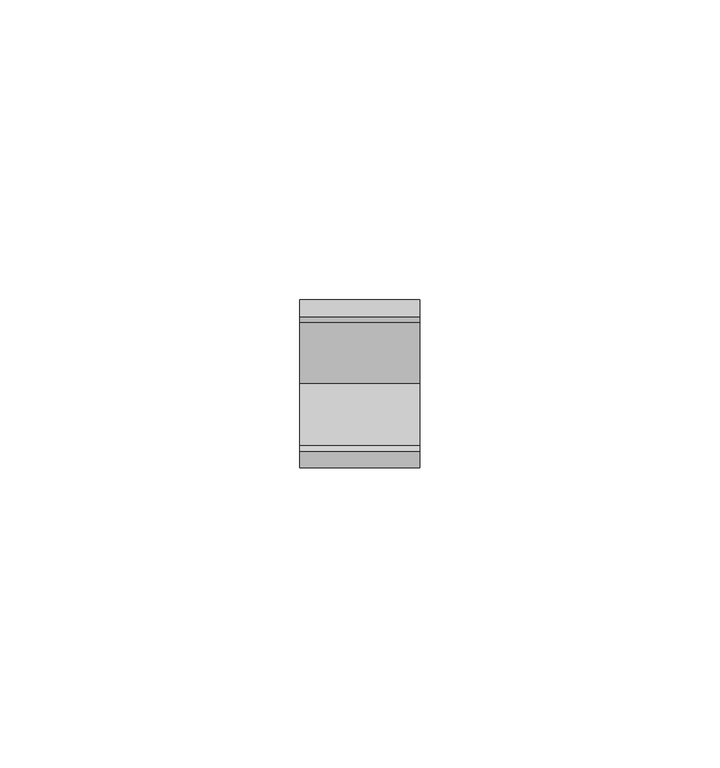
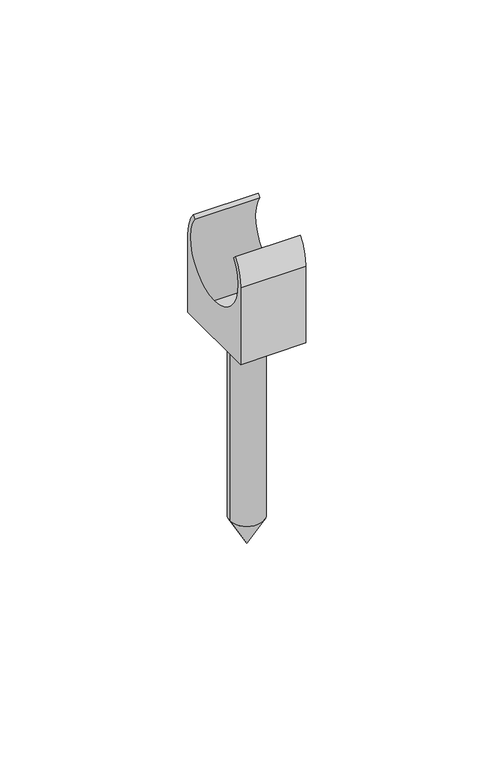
"""IFC4 building model written with IfcOpenShell, lengths in millimetres: cable carrier fitting geometry, Держатель с защелкой и дюбелем CT : CTA10D-CT25-K41-100."""

from ifc_helpers import new_model, si_unit, point, frame, origin, origin_2d, place, context, project, spatial, polyline, circle_curve, trimmed, segment, composite_curve, outline, extrude, source, transform, mapped, element, save
from ifc_brep_helpers import plane_surface, cylinder_surface, revolved_surface, advanced_brep


def cable_carrier_fitting_8feb8c2b(model_context):
    return source(origin(), model_context, "Body", "SolidModel", [
        advanced_brep(
        [(0.0, 0.0, -25.0), (5.2073093, 0.0, -25.0), (-5.2073093, 0.0, -25.0), (-5.2073093, 0.0, -85.9806758), (5.2073093, 0.0, -85.9806758), (0.0, 0.0, -95.0)],
        [
            (0, 1),
            (1, 2, circle_curve(frame((0.0, 0.0, -25.0), z_axis=(0.0, 0.0, 1.0), x_axis=(1.0, 0.0, 0.0)), 5.2073093)),
            (2, 0),
            (2, 1, circle_curve(frame((0.0, 0.0, -25.0), z_axis=(0.0, 0.0, 1.0), x_axis=(1.0, 0.0, 0.0)), 5.2073093)),
            (3, 4, circle_curve(frame((0.0, 0.0, -85.9806758), z_axis=(0.0, 0.0, -1.0), x_axis=(1.0, 0.0, 0.0)), 5.2073093)),
            (4, 5),
            (5, 3),
            (4, 3, circle_curve(frame((0.0, 0.0, -85.9806758), z_axis=(0.0, 0.0, -1.0), x_axis=(1.0, 0.0, 0.0)), 5.2073093)),
            (1, 4),
            (3, 2),
        ],
        [
            plane_surface(frame((0.0, 0.0, -25.0), z_axis=(0.0, 0.0, 1.0), x_axis=(1.0, 0.0, 0.0))),
            revolved_surface(polyline([(0.0, 0.0, -95.0), (5.2073093, 0.0, -85.9806758)]), (0.0, 0.0, 2189.3150031), (0.0, 0.0, 1.0)),
            cylinder_surface(frame((0.0, 0.0, 2189.3150031), z_axis=(0.0, 0.0, 1.0), x_axis=(1.0, 0.0, 0.0)), 5.2073093),
        ],
        [
            (0, [[1, 2, 3]]),
            (0, [[-3, 4, -1]]),
            (1, [[5, 6, 7]]),
            (1, [[8, -7, -6]]),
            (2, [[-2, 9, -5, 10]]),
            (2, [[-4, -10, -8, -9]]),
        ],
    ),
        extrude(outline(composite_curve([segment(trimmed(circle_curve(origin_2d(), 12.7512632), [point((0.0, -12.7512632))], [point((10.3243712, 7.4834533))], True, "CARTESIAN"), True, "CONTINUOUS"), segment(polyline([(10.3243712, 7.4834533), (11.2175144, 8.3765966)]), True, "CONTINUOUS"), segment(trimmed(circle_curve(origin_2d(), 14.0), [point((11.2175144, 8.3765966))], [point((14.0, 0.0))], False, "CARTESIAN"), True, "CONTINUOUS"), segment(polyline([(14.0, 0.0), (14.0, -25.0), (-14.0, -25.0), (-14.0, 0.0)]), True, "CONTINUOUS"), segment(trimmed(circle_curve(origin_2d(), 14.0), [point((-14.0, 0.0))], [point((-11.2175144, 8.3765966))], False, "CARTESIAN"), True, "CONTINUOUS"), segment(polyline([(-11.2175144, 8.3765966), (-10.3243712, 7.4834533)]), True, "CONTINUOUS"), segment(trimmed(circle_curve(origin_2d(), 12.7512632), [point((-10.3243712, 7.4834533))], [point((0.0, -12.7512632))], True, "CARTESIAN"), True, "CONTINUOUS")], self_intersect=False)), frame((-10.0, 0.0, 0.0), z_axis=(1.0, 0.0, 0.0), x_axis=(0.0, 1.0, 0.0)), (0.0, 0.0, 1.0), 20.0),
    ])


if __name__ == "__main__":
    model = new_model("IFC4")
    model_context = context("Model", 3, world=origin())
    ifc_project = project(units=[si_unit("LENGTHUNIT", "METRE", prefix="MILLI")], contexts=[model_context])
    site = spatial("IfcSite", under=ifc_project)
    building = spatial("IfcBuilding", under=site)
    placement = place(None, origin())
    cable_carrier_fitting_shape = cable_carrier_fitting_8feb8c2b(model_context)
    element("IfcCableCarrierFitting", 1, ObjectType="Держатель с защелкой и дюбелем CT : CTA10D-CT25-K41-100", at=placement, inside=building, context=model_context, shape_type="MappedRepresentation", body=[
        mapped(cable_carrier_fitting_shape, transform((0.0, 0.0, 0.0), x_axis=(1.0, 0.0, 0.0), y_axis=(0.0, 1.0, 0.0), z_axis=(0.0, 0.0, 1.0))),
    ])
    save(model, "model.ifc")
